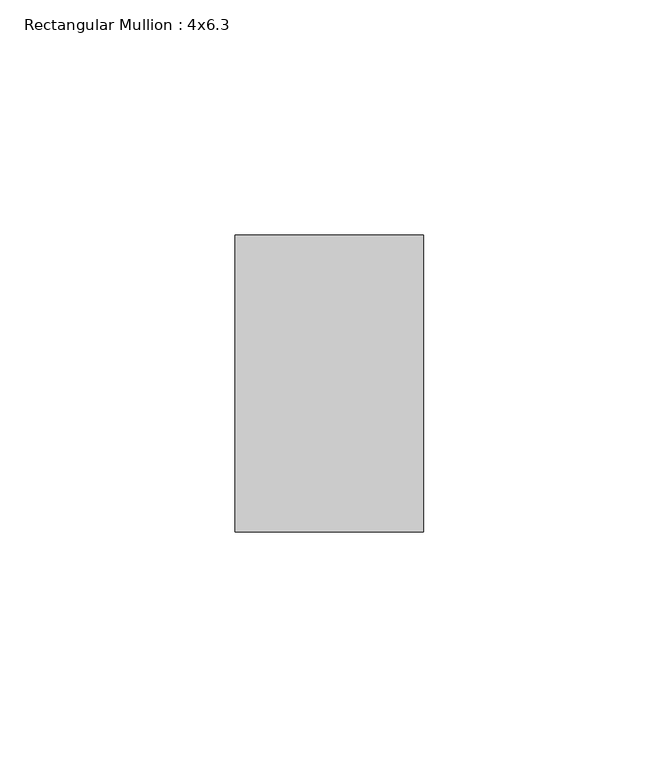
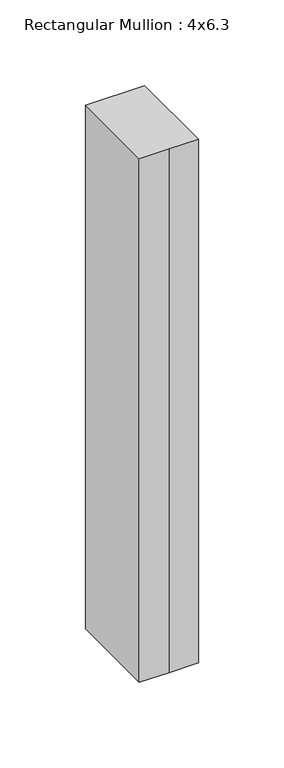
"""IFC4 building model written with IfcOpenShell, lengths in millimetres: member geometry, Rectangular Mullion : 4x6.3."""

from ifc_helpers import new_model, si_unit, frame, origin, place, context, project, spatial, polyline, outline, extrude, source, transform, mapped, element, save


def rectangular_mullion_4x6_3_203ba6bc(model_context):
    return source(origin(), model_context, "Body", "SweptSolid", [
        extrude(outline(polyline([(-20.0, 20.0), (-20.0, 83.0), (20.0, 83.0), (20.0, 20.0), (0.0, 20.0), (-20.0, 20.0)])), frame((0.0, 0.0, -373.4761744), z_axis=(0.0, 0.0, 1.0), x_axis=(1.0, 0.0, 0.0)), (0.0, 0.0, 1.0), 373.4761744),
    ])


if __name__ == "__main__":
    model = new_model("IFC4")
    model_context = context("Model", 3, world=origin())
    ifc_project = project(units=[si_unit("LENGTHUNIT", "METRE", prefix="MILLI")], contexts=[model_context])
    site = spatial("IfcSite", under=ifc_project)
    building = spatial("IfcBuilding", under=site)
    placement = place(None, origin())
    rectangular_mullion_4x6_3_shape = rectangular_mullion_4x6_3_203ba6bc(model_context)
    element("IfcMember", 1, ObjectType="Rectangular Mullion : 4x6.3", at=placement, inside=building, context=model_context, shape_type="MappedRepresentation", body=[
        mapped(rectangular_mullion_4x6_3_shape, transform((0.0, 0.0, 0.0), x_axis=(1.0, 0.0, 0.0), y_axis=(0.0, 1.0, 0.0), z_axis=(0.0, 0.0, 1.0))),
    ])
    save(model, "model.ifc")
